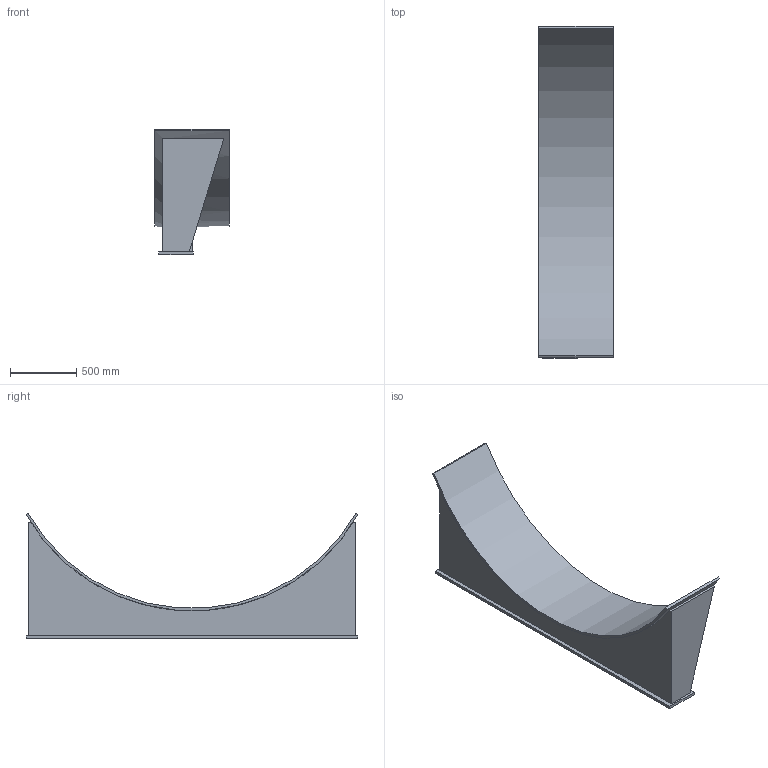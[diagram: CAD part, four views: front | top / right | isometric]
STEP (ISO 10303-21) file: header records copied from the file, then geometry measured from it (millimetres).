
FILE_DESCRIPTION(/* description */ (''),/* implementation_level */ '2;1');
FILE_NAME(/* name */ 'C:\Users\D\Documents\Inventor\HP\JPI\横置きタンクサドル\重荷重用\hc-saddle-hl_2800.stp',/* time_stamp */ '2026-01-27T18:45:49+09:00',/* author */ ('D'),/* organization */ (''),/* preprocessor_version */ 'ST-DEVELOPER v18',/* originating_system */ 'Autodesk Inventor 2020',/* authorisation */ '');
FILE_SCHEMA (('AUTOMOTIVE_DESIGN { 1 0 10303 214 3 1 1 }'));
Length unit declared in the file: millimetre
Products named in the file (1): 200A
Bounding box: 560 x 2502.38 x 944.58 mm (x, y, z)
Volume: 76521267.8 mm3; surface area: 8057015.4 mm2
Topology: 1 solids, 1 shells, 34 faces, 86 edges, 56 vertices
Faces by surface type: plane 30, cylinder 4
Full cylindrical faces by diameter (mm): 47 x2
Entity records: 1089 total; most frequent: CARTESIAN_POINT 181, ORIENTED_EDGE 180, DIRECTION 174, EDGE_CURVE 90, LINE 76, VECTOR 76, VERTEX_POINT 56, AXIS2_PLACEMENT_3D 49
